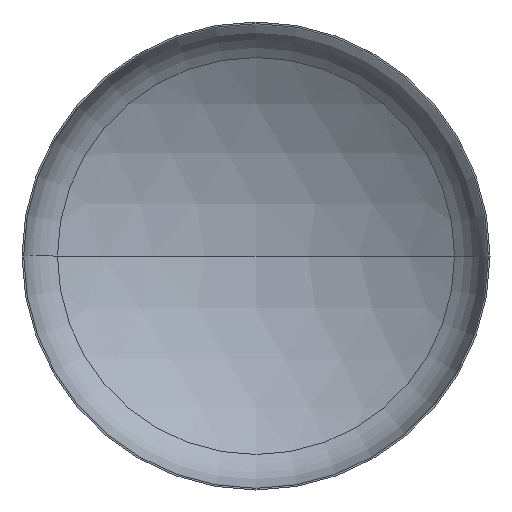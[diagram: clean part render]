
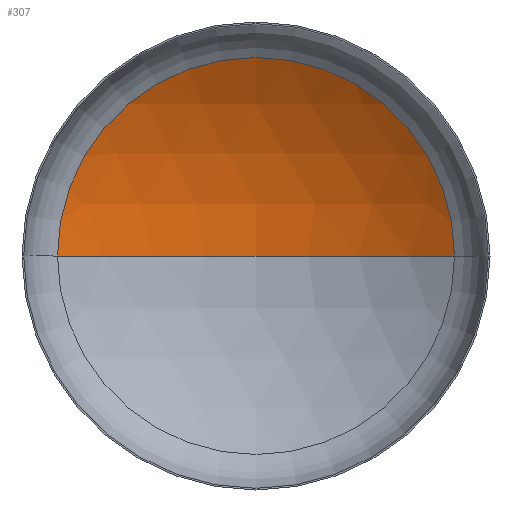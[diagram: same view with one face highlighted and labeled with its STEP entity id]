
A CAD part, front view. The second image highlights one B-rep face of the part: STEP entity #307.
In plain terms, the highlighted spherical face has radius 5200 mm.
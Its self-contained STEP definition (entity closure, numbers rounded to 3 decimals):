
#30 = VERTEX_POINT ( 'NONE', #272 ) ;
#44 = AXIS2_PLACEMENT_3D ( 'NONE', #199, #193, #196 ) ;
#46 = AXIS2_PLACEMENT_3D ( 'NONE', #291, #290, #289 ) ;
#52 = AXIS2_PLACEMENT_3D ( 'NONE', #287, #286, #283 ) ;
#53 = ORIENTED_EDGE ( 'NONE', *, *, #111, .T. ) ;
#89 = VERTEX_POINT ( 'NONE', #239 ) ;
#99 = ORIENTED_EDGE ( 'NONE', *, *, #115, .T. ) ;
#103 = EDGE_LOOP ( 'NONE', ( #392, #99, #53 ) ) ;
#111 = EDGE_CURVE ( 'NONE', #116, #89, #315, .T. ) ;
#115 = EDGE_CURVE ( 'NONE', #30, #116, #250, .T. ) ;
#116 = VERTEX_POINT ( 'NONE', #302 ) ;
#120 = EDGE_CURVE ( 'NONE', #30, #89, #378, .T. ) ;
#144 = CARTESIAN_POINT ( 'NONE',  ( 0., -3490.965, 0. ) ) ;
#146 = DIRECTION ( 'NONE',  ( 0., 0., -1. ) ) ;
#193 = DIRECTION ( 'NONE',  ( 0., 0., 1. ) ) ;
#196 = DIRECTION ( 'NONE',  ( 1., 0., 0. ) ) ;
#199 = CARTESIAN_POINT ( 'NONE',  ( 0., -3490.965, 0. ) ) ;
#213 = SPHERICAL_SURFACE ( 'NONE', #251, 5200. ) ;
#239 = CARTESIAN_POINT ( 'NONE',  ( -2757.238, 917.849, 0. ) ) ;
#250 = CIRCLE ( 'NONE', #46, 5200. ) ;
#251 = AXIS2_PLACEMENT_3D ( 'NONE', #144, #146, #271 ) ;
#271 = DIRECTION ( 'NONE',  ( -1., 0., 0. ) ) ;
#272 = CARTESIAN_POINT ( 'NONE',  ( 0., 1709.035, 0. ) ) ;
#283 = DIRECTION ( 'NONE',  ( 1., 0., 0. ) ) ;
#286 = DIRECTION ( 'NONE',  ( 0., -1., 0. ) ) ;
#287 = CARTESIAN_POINT ( 'NONE',  ( 0., 917.849, 0. ) ) ;
#289 = DIRECTION ( 'NONE',  ( -1., 0., 0. ) ) ;
#290 = DIRECTION ( 'NONE',  ( 0., 0., -1. ) ) ;
#291 = CARTESIAN_POINT ( 'NONE',  ( 0., -3490.965, 0. ) ) ;
#302 = CARTESIAN_POINT ( 'NONE',  ( 2757.238, 917.849, 0. ) ) ;
#307 = ADVANCED_FACE ( 'NONE', ( #337 ), #213, .F. ) ;
#315 = CIRCLE ( 'NONE', #52, 2757.238 ) ;
#337 = FACE_OUTER_BOUND ( 'NONE', #103, .T. ) ;
#378 = CIRCLE ( 'NONE', #44, 5200. ) ;
#392 = ORIENTED_EDGE ( 'NONE', *, *, #120, .F. ) ;
